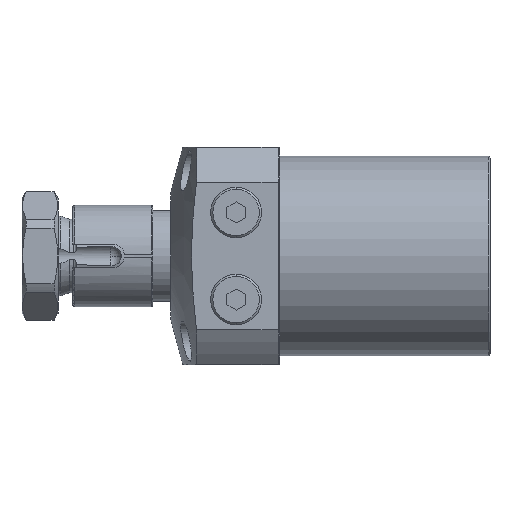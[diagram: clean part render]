
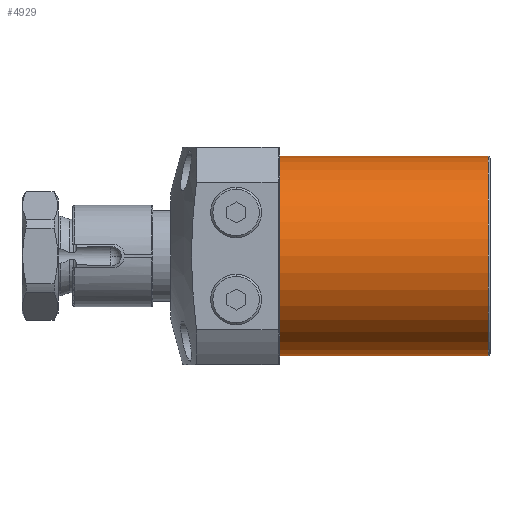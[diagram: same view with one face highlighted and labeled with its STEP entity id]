
A CAD part, left-side view. The second image highlights one B-rep face of the part: STEP entity #4929.
In plain terms, the highlighted cylindrical face has radius 27.5 mm (diameter 55 mm), a partial arc.
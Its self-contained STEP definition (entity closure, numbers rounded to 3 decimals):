
#18 = CARTESIAN_POINT ( 'NONE',  ( 30., 0., -27.5 ) ) ;
#703 = CARTESIAN_POINT ( 'NONE',  ( 89., 0., 0. ) ) ;
#1040 = CARTESIAN_POINT ( 'NONE',  ( 87.5, 0., 0. ) ) ;
#1065 = EDGE_LOOP ( 'NONE', ( #1570, #5350, #4054, #3166 ) ) ;
#1298 = DIRECTION ( 'NONE',  ( 0., 0., 1. ) ) ;
#1346 = CARTESIAN_POINT ( 'NONE',  ( 89., 0., 27.5 ) ) ;
#1532 = VERTEX_POINT ( 'NONE', #3506 ) ;
#1570 = ORIENTED_EDGE ( 'NONE', *, *, #4617, .F. ) ;
#1633 = DIRECTION ( 'NONE',  ( 0., 0., -1. ) ) ;
#1641 = CARTESIAN_POINT ( 'NONE',  ( 87.5, 0., 27.5 ) ) ;
#2170 = AXIS2_PLACEMENT_3D ( 'NONE', #1040, #5266, #1633 ) ;
#2332 = CARTESIAN_POINT ( 'NONE',  ( 30., 0., 27.5 ) ) ;
#2532 = FACE_OUTER_BOUND ( 'NONE', #1065, .T. ) ;
#2560 = DIRECTION ( 'NONE',  ( 1., 0., 0. ) ) ;
#2945 = EDGE_CURVE ( 'NONE', #1532, #6340, #6804, .T. ) ;
#3166 = ORIENTED_EDGE ( 'NONE', *, *, #6549, .T. ) ;
#3506 = CARTESIAN_POINT ( 'NONE',  ( 87.5, 0., -27.5 ) ) ;
#3562 = EDGE_CURVE ( 'NONE', #6340, #6805, #4329, .T. ) ;
#4054 = ORIENTED_EDGE ( 'NONE', *, *, #3562, .T. ) ;
#4059 = VERTEX_POINT ( 'NONE', #18 ) ;
#4329 = LINE ( 'NONE', #1346, #7362 ) ;
#4544 = AXIS2_PLACEMENT_3D ( 'NONE', #6195, #2560, #6794 ) ;
#4617 = EDGE_CURVE ( 'NONE', #1532, #4059, #6135, .T. ) ;
#4729 = DIRECTION ( 'NONE',  ( -1., 0., 0. ) ) ;
#4911 = AXIS2_PLACEMENT_3D ( 'NONE', #703, #4934, #1298 ) ;
#4929 = ADVANCED_FACE ( 'NONE', ( #2532 ), #7834, .T. ) ;
#4934 = DIRECTION ( 'NONE',  ( -1., 0., 0. ) ) ;
#5059 = CIRCLE ( 'NONE', #4544, 27.5 ) ;
#5266 = DIRECTION ( 'NONE',  ( -1., 0., 0. ) ) ;
#5350 = ORIENTED_EDGE ( 'NONE', *, *, #2945, .T. ) ;
#5577 = DIRECTION ( 'NONE',  ( -1., 0., 0. ) ) ;
#5957 = CARTESIAN_POINT ( 'NONE',  ( 89., 0., -27.5 ) ) ;
#6135 = LINE ( 'NONE', #5957, #7363 ) ;
#6195 = CARTESIAN_POINT ( 'NONE',  ( 30., 0., 0. ) ) ;
#6340 = VERTEX_POINT ( 'NONE', #1641 ) ;
#6549 = EDGE_CURVE ( 'NONE', #6805, #4059, #5059, .T. ) ;
#6794 = DIRECTION ( 'NONE',  ( 0., 0., -1. ) ) ;
#6804 = CIRCLE ( 'NONE', #2170, 27.5 ) ;
#6805 = VERTEX_POINT ( 'NONE', #2332 ) ;
#7362 = VECTOR ( 'NONE', #5577, 1000. ) ;
#7363 = VECTOR ( 'NONE', #4729, 1000. ) ;
#7834 = CYLINDRICAL_SURFACE ( 'NONE', #4911, 27.5 ) ;
